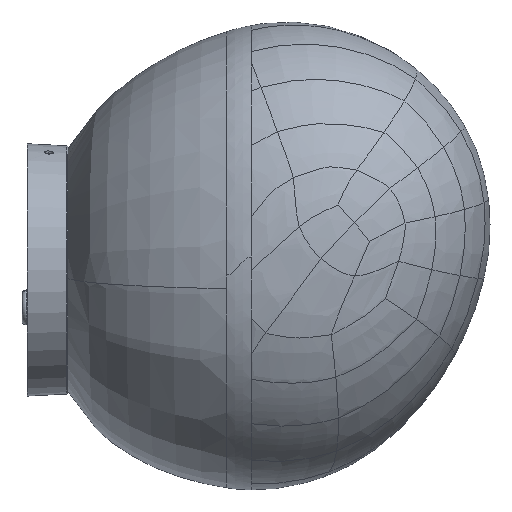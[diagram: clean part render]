
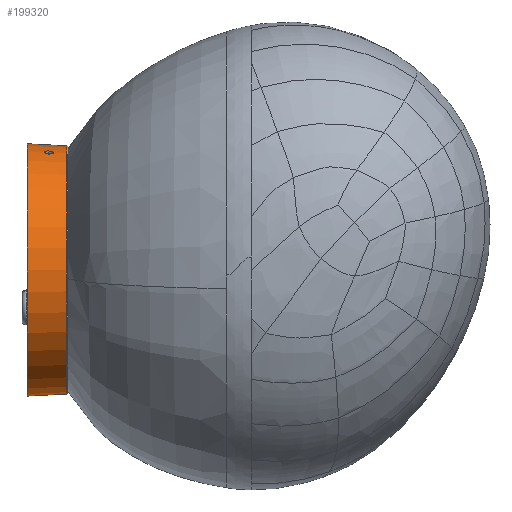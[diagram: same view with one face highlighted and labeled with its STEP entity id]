
A CAD part, left-side view. The second image highlights one B-rep face of the part: STEP entity #199320.
In plain terms, the highlighted conical face has half-angle 3 degrees and reference radius 46 mm.
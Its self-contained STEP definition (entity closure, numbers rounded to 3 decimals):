
#1469 = CARTESIAN_POINT ( 'NONE',  ( -16.659, 23.432, 43.351 ) ) ;
#1540 = DIRECTION ( 'NONE',  ( 0., 0., 1. ) ) ;
#2642 = CARTESIAN_POINT ( 'NONE',  ( -16.824, 23.312, 43.281 ) ) ;
#4562 = CIRCLE ( 'NONE', #160014, 46.786 ) ;
#6275 = CARTESIAN_POINT ( 'NONE',  ( -14.296, 21.892, 44.102 ) ) ;
#10812 = CARTESIAN_POINT ( 'NONE',  ( -14.3, 22.108, 44.113 ) ) ;
#13804 = DIRECTION ( 'NONE',  ( 0., 1., 0. ) ) ;
#16925 = B_SPLINE_CURVE_WITH_KNOTS ( 'NONE', 3,
 ( #200951, #58448, #149868, #77440, #202131, #165349, #162991, #184327, #2642, #1469, #39469, #221123, #130886, #203297, #40635, #222287, #111895, #94076, #185497, #132049, #109535, #22809, #72743, #145179, #209148, #224634, #10812, #155707 ),
 .UNSPECIFIED., .F., .F.,
 ( 4, 2, 2, 2, 2, 2, 2, 2, 2, 2, 2, 2, 2, 4 ),
 ( 0.001, 0.001, 0.002, 0.002, 0.002, 0.003, 0.003, 0.004, 0.004, 0.004, 0.005, 0.005, 0.006, 0.006 ),
 .UNSPECIFIED. ) ;
#18125 = CARTESIAN_POINT ( 'NONE',  ( 0., 30., 46.786 ) ) ;
#19358 = CARTESIAN_POINT ( 'NONE',  ( 0., 15., 0. ) ) ;
#22699 = VECTOR ( 'NONE', #30453, 1000. ) ;
#22809 = CARTESIAN_POINT ( 'NONE',  ( -14.63, 23.014, 44.054 ) ) ;
#30453 = DIRECTION ( 'NONE',  ( 0., 0.999, 0.052 ) ) ;
#30692 = CARTESIAN_POINT ( 'NONE',  ( 0., 30., 0. ) ) ;
#39469 = CARTESIAN_POINT ( 'NONE',  ( -16.571, 23.482, 43.388 ) ) ;
#40635 = CARTESIAN_POINT ( 'NONE',  ( -15.684, 23.639, 43.725 ) ) ;
#44269 = CARTESIAN_POINT ( 'NONE',  ( -15.426, 20.403, 43.637 ) ) ;
#44987 = DIRECTION ( 'NONE',  ( 0., 1., 0. ) ) ;
#45047 = LINE ( 'NONE', #120684, #22699 ) ;
#50118 = CARTESIAN_POINT ( 'NONE',  ( -17.311, 21.469, 42.984 ) ) ;
#54102 = CARTESIAN_POINT ( 'NONE',  ( -14.298, 22., 44.107 ) ) ;
#55344 = CARTESIAN_POINT ( 'NONE',  ( -14.368, 21.469, 44.055 ) ) ;
#56515 = CARTESIAN_POINT ( 'NONE',  ( -14.593, 20.987, 43.955 ) ) ;
#58448 = CARTESIAN_POINT ( 'NONE',  ( -17.403, 22.215, 42.989 ) ) ;
#62079 = CARTESIAN_POINT ( 'NONE',  ( -14.304, 21.783, 44.093 ) ) ;
#63241 = CARTESIAN_POINT ( 'NONE',  ( -17.397, 21.893, 42.973 ) ) ;
#65985 = VERTEX_POINT ( 'NONE', #230964 ) ;
#67920 = CARTESIAN_POINT ( 'NONE',  ( -17.399, 22., 42.979 ) ) ;
#68652 = CIRCLE ( 'NONE', #201354, 46.025 ) ;
#72743 = CARTESIAN_POINT ( 'NONE',  ( -14.51, 22.83, 44.084 ) ) ;
#73993 = FACE_BOUND ( 'NONE', #158436, .T. ) ;
#77440 = CARTESIAN_POINT ( 'NONE',  ( -17.257, 22.73, 43.077 ) ) ;
#78345 = DIRECTION ( 'NONE',  ( 0., 0.999, -0.052 ) ) ;
#80038 = ORIENTED_EDGE ( 'NONE', *, *, #232076, .F. ) ;
#81072 = CARTESIAN_POINT ( 'NONE',  ( -16.855, 20.756, 43.125 ) ) ;
#92757 = EDGE_CURVE ( 'NONE', #118564, #168458, #117473, .T. ) ;
#94076 = CARTESIAN_POINT ( 'NONE',  ( -15.195, 23.483, 43.889 ) ) ;
#95814 = ORIENTED_EDGE ( 'NONE', *, *, #186314, .T. ) ;
#97704 = CARTESIAN_POINT ( 'NONE',  ( -16.03, 20.35, 43.416 ) ) ;
#102370 = CARTESIAN_POINT ( 'NONE',  ( -17.073, 20.984, 43.052 ) ) ;
#104071 = FACE_OUTER_BOUND ( 'NONE', #228796, .T. ) ;
#109535 = CARTESIAN_POINT ( 'NONE',  ( -14.85, 23.242, 43.993 ) ) ;
#111895 = CARTESIAN_POINT ( 'NONE',  ( -15.385, 23.565, 43.827 ) ) ;
#115532 = CARTESIAN_POINT ( 'NONE',  ( -15.143, 20.517, 43.742 ) ) ;
#116703 = CARTESIAN_POINT ( 'NONE',  ( -16.235, 20.393, 43.342 ) ) ;
#117473 = B_SPLINE_CURVE_WITH_KNOTS ( 'NONE', 3,
 ( #201373, #6275, #62079, #145606, #55344, #170143, #56515, #151153, #134522, #223583, #115532, #163419, #44269, #187954, #206935, #97704, #116703, #127779, #189126, #155830, #81072, #102370, #229427, #50118, #212782, #173641, #63241, #67920 ),
 .UNSPECIFIED., .F., .F.,
 ( 4, 2, 2, 2, 2, 2, 2, 2, 2, 2, 2, 2, 2, 4 ),
 ( 0.006, 0.006, 0.007, 0.007, 0.008, 0.008, 0.008, 0.009, 0.009, 0.01, 0.01, 0.01, 0.011, 0.011 ),
 .UNSPECIFIED. ) ;
#118564 = VERTEX_POINT ( 'NONE', #54102 ) ;
#120684 = CARTESIAN_POINT ( 'NONE',  ( 0., 15., 46. ) ) ;
#122606 = DIRECTION ( 'NONE',  ( 0., 0., -1. ) ) ;
#127500 = ORIENTED_EDGE ( 'NONE', *, *, #144564, .F. ) ;
#127779 = CARTESIAN_POINT ( 'NONE',  ( -16.516, 20.516, 43.243 ) ) ;
#130886 = CARTESIAN_POINT ( 'NONE',  ( -16.092, 23.65, 43.578 ) ) ;
#132049 = CARTESIAN_POINT ( 'NONE',  ( -14.932, 23.311, 43.969 ) ) ;
#134235 = ORIENTED_EDGE ( 'NONE', *, *, #152177, .T. ) ;
#134522 = CARTESIAN_POINT ( 'NONE',  ( -14.885, 20.689, 43.84 ) ) ;
#144564 = EDGE_CURVE ( 'NONE', #65985, #231676, #204199, .T. ) ;
#145179 = CARTESIAN_POINT ( 'NONE',  ( -14.388, 22.532, 44.107 ) ) ;
#145606 = CARTESIAN_POINT ( 'NONE',  ( -14.34, 21.572, 44.07 ) ) ;
#149868 = CARTESIAN_POINT ( 'NONE',  ( -17.367, 22.432, 43.016 ) ) ;
#151153 = CARTESIAN_POINT ( 'NONE',  ( -14.807, 20.757, 43.87 ) ) ;
#152177 = EDGE_CURVE ( 'NONE', #168458, #118564, #16925, .T. ) ;
#154285 = CONICAL_SURFACE ( 'NONE', #211056, 46., 0.052 ) ;
#155707 = CARTESIAN_POINT ( 'NONE',  ( -14.298, 22., 44.107 ) ) ;
#155830 = CARTESIAN_POINT ( 'NONE',  ( -16.777, 20.688, 43.152 ) ) ;
#157721 = DIRECTION ( 'NONE',  ( 0., 0., 1. ) ) ;
#158436 = EDGE_LOOP ( 'NONE', ( #200271, #134235 ) ) ;
#159296 = CARTESIAN_POINT ( 'NONE',  ( 0., 30., -46.786 ) ) ;
#160014 = AXIS2_PLACEMENT_3D ( 'NONE', #30692, #44987, #157721 ) ;
#162991 = CARTESIAN_POINT ( 'NONE',  ( -17.041, 23.09, 43.183 ) ) ;
#163419 = CARTESIAN_POINT ( 'NONE',  ( -15.329, 20.434, 43.673 ) ) ;
#165349 = CARTESIAN_POINT ( 'NONE',  ( -17.103, 23.006, 43.154 ) ) ;
#168458 = VERTEX_POINT ( 'NONE', #194609 ) ;
#169759 = CARTESIAN_POINT ( 'NONE',  ( 0., 15., -46. ) ) ;
#170143 = CARTESIAN_POINT ( 'NONE',  ( -14.481, 21.169, 44.002 ) ) ;
#170688 = VERTEX_POINT ( 'NONE', #174795 ) ;
#173641 = CARTESIAN_POINT ( 'NONE',  ( -17.385, 21.784, 42.972 ) ) ;
#174795 = CARTESIAN_POINT ( 'NONE',  ( 0., 15.474, 46.025 ) ) ;
#179008 = ORIENTED_EDGE ( 'NONE', *, *, #221640, .T. ) ;
#184327 = CARTESIAN_POINT ( 'NONE',  ( -16.902, 23.242, 43.247 ) ) ;
#185497 = CARTESIAN_POINT ( 'NONE',  ( -15.104, 23.432, 43.917 ) ) ;
#186314 = EDGE_CURVE ( 'NONE', #170688, #194173, #45047, .T. ) ;
#187954 = CARTESIAN_POINT ( 'NONE',  ( -15.625, 20.361, 43.564 ) ) ;
#189126 = CARTESIAN_POINT ( 'NONE',  ( -16.607, 20.568, 43.211 ) ) ;
#189189 = VECTOR ( 'NONE', #78345, 1000. ) ;
#194173 = VERTEX_POINT ( 'NONE', #18125 ) ;
#194609 = CARTESIAN_POINT ( 'NONE',  ( -17.399, 22., 42.979 ) ) ;
#199320 = ADVANCED_FACE ( 'NONE', ( #104071, #73993 ), #154285, .T. ) ;
#200271 = ORIENTED_EDGE ( 'NONE', *, *, #92757, .T. ) ;
#200951 = CARTESIAN_POINT ( 'NONE',  ( -17.399, 22., 42.979 ) ) ;
#201354 = AXIS2_PLACEMENT_3D ( 'NONE', #215149, #230650, #122606 ) ;
#201373 = CARTESIAN_POINT ( 'NONE',  ( -14.298, 22., 44.107 ) ) ;
#202131 = CARTESIAN_POINT ( 'NONE',  ( -17.211, 22.827, 43.101 ) ) ;
#203297 = CARTESIAN_POINT ( 'NONE',  ( -15.785, 23.65, 43.689 ) ) ;
#204199 = LINE ( 'NONE', #169759, #189189 ) ;
#206935 = CARTESIAN_POINT ( 'NONE',  ( -15.727, 20.35, 43.526 ) ) ;
#209148 = CARTESIAN_POINT ( 'NONE',  ( -14.355, 22.427, 44.112 ) ) ;
#211056 = AXIS2_PLACEMENT_3D ( 'NONE', #19358, #13804, #1540 ) ;
#212782 = CARTESIAN_POINT ( 'NONE',  ( -17.342, 21.572, 42.977 ) ) ;
#215149 = CARTESIAN_POINT ( 'NONE',  ( 0., 15.474, 0. ) ) ;
#221123 = CARTESIAN_POINT ( 'NONE',  ( -16.292, 23.607, 43.501 ) ) ;
#221640 = EDGE_CURVE ( 'NONE', #65985, #170688, #68652, .T. ) ;
#222287 = CARTESIAN_POINT ( 'NONE',  ( -15.484, 23.597, 43.794 ) ) ;
#223583 = CARTESIAN_POINT ( 'NONE',  ( -15.052, 20.569, 43.776 ) ) ;
#224634 = CARTESIAN_POINT ( 'NONE',  ( -14.312, 22.215, 44.115 ) ) ;
#228796 = EDGE_LOOP ( 'NONE', ( #127500, #179008, #95814, #80038 ) ) ;
#229427 = CARTESIAN_POINT ( 'NONE',  ( -17.191, 21.17, 43.015 ) ) ;
#230650 = DIRECTION ( 'NONE',  ( 0., 1., 0. ) ) ;
#230964 = CARTESIAN_POINT ( 'NONE',  ( 0., 15.474, -46.025 ) ) ;
#231676 = VERTEX_POINT ( 'NONE', #159296 ) ;
#232076 = EDGE_CURVE ( 'NONE', #231676, #194173, #4562, .T. ) ;
